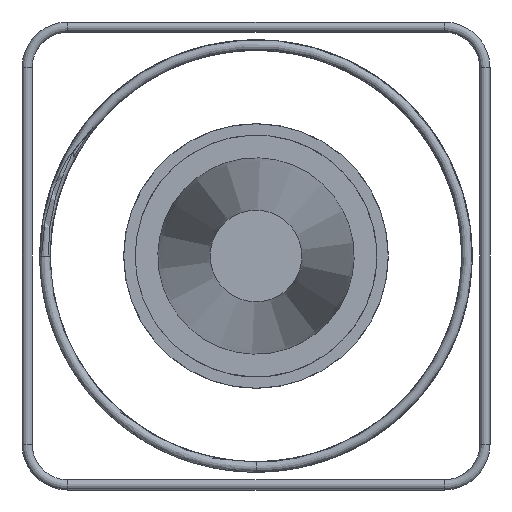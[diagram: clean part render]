
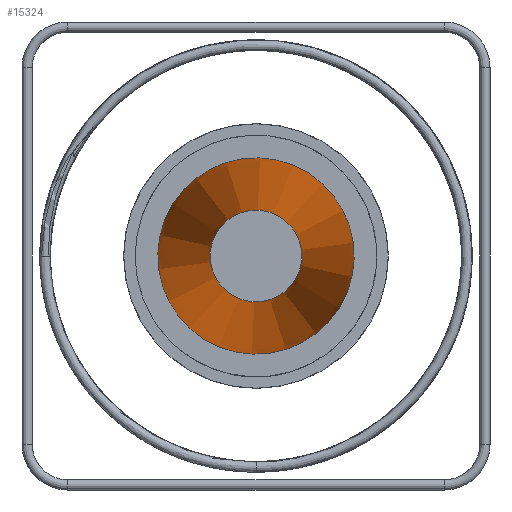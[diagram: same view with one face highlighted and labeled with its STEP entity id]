
A CAD part, left-side view. The second image highlights one B-rep face of the part: STEP entity #15324.
In plain terms, the highlighted conical face has half-angle 2 degrees and reference radius 141.5 mm.
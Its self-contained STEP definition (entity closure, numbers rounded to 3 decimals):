
#23=CONICAL_SURFACE('',#16241,141.5,2.);
#3593=FACE_BOUND('',#5442,.T.);
#4439=FACE_OUTER_BOUND('',#5441,.T.);
#5441=EDGE_LOOP('',(#13709));
#5442=EDGE_LOOP('',(#13710));
#6014=CIRCLE('',#16240,193.);
#6015=CIRCLE('',#16242,90.);
#7491=VERTEX_POINT('',#32439);
#7492=VERTEX_POINT('',#32442);
#9610=EDGE_CURVE('',#7491,#7491,#6014,.T.);
#9611=EDGE_CURVE('',#7492,#7492,#6015,.T.);
#13709=ORIENTED_EDGE('',*,*,#9611,.F.);
#13710=ORIENTED_EDGE('',*,*,#9610,.T.);
#15324=ADVANCED_FACE('',(#4439,#3593),#23,.T.);
#16240=AXIS2_PLACEMENT_3D('',#32440,#18920,#18921);
#16241=AXIS2_PLACEMENT_3D('',#32441,#18922,#18923);
#16242=AXIS2_PLACEMENT_3D('',#32443,#18924,#18925);
#18920=DIRECTION('center_axis',(-1.,0.,0.));
#18921=DIRECTION('ref_axis',(0.,-0.74,-0.673));
#18922=DIRECTION('center_axis',(1.,0.,0.));
#18923=DIRECTION('ref_axis',(0.,0.673,-0.74));
#18924=DIRECTION('center_axis',(-1.,0.,0.));
#18925=DIRECTION('ref_axis',(0.,-0.74,-0.673));
#32439=CARTESIAN_POINT('',(-795.,129.816,-142.817));
#32440=CARTESIAN_POINT('Origin',(-795.,0.,0.));
#32441=CARTESIAN_POINT('Origin',(-2270.,0.,0.));
#32442=CARTESIAN_POINT('',(-3745.,60.536,-66.599));
#32443=CARTESIAN_POINT('Origin',(-3745.,0.,0.));
